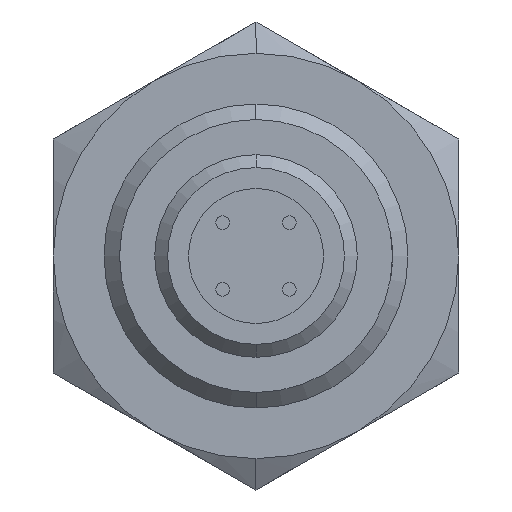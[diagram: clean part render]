
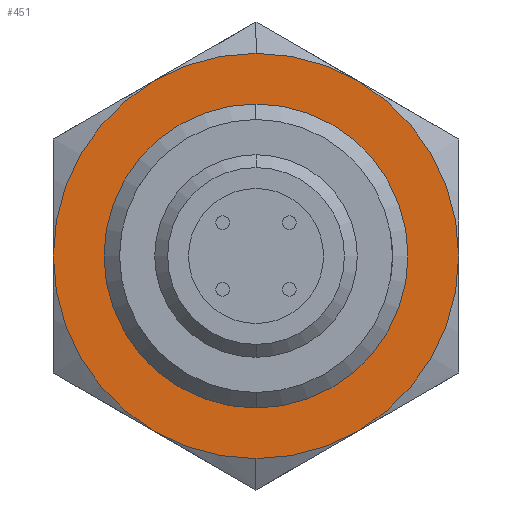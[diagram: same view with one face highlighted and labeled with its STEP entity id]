
A CAD part, left-side view. The second image highlights one B-rep face of the part: STEP entity #451.
In plain terms, the highlighted planar face has unit normal (-1, 0, 0).
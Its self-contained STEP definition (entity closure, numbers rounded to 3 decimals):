
#249=CARTESIAN_POINT('POINT1297',(-6.,0.,
   -12.));
#250=VERTEX_POINT('VERTEX1297',#249);
#259=CARTESIAN_POINT('POINT1299',(-6.,-6.,
   -10.392));
#260=VERTEX_POINT('VERTEX1299',#259);
#267=CARTESIAN_POINT('POS1658',(-6.,0.,
   0.));
#268=DIRECTION('DIR2678',(-1.,0.,
   0.));
#269=DIRECTION('DIR2679',(0.,0.,
   -1.));
#270=AXIS2_PLACEMENT_3D('AXIS1021',#267,#268,#269);
#271=CIRCLE('ELLIPSE428',#270,12.);
#272=EDGE_CURVE('EDGE2199',#250,#260,#271,.T.);
#283=CARTESIAN_POINT('POINT1300',(-6.,6.,
   -10.392));
#284=VERTEX_POINT('VERTEX1300',#283);
#285=EDGE_CURVE('EDGE2200',#284,#250,#271,.T.);
#296=CARTESIAN_POINT('POINT1301',(-6.,-12.,
   0.));
#297=VERTEX_POINT('VERTEX1301',#296);
#306=EDGE_CURVE('EDGE2203',#260,#297,#271,.T.);
#325=CARTESIAN_POINT('POINT1304',(-6.,12.,
   0.));
#326=VERTEX_POINT('VERTEX1304',#325);
#327=EDGE_CURVE('EDGE2206',#326,#284,#271,.T.);
#411=CARTESIAN_POINT('POINT1310',(-6.,0.,9.));
#412=VERTEX_POINT('VERTEX1310',#411);
#413=CARTESIAN_POINT('POINT1311',(-6.,0.,
   -9.));
#414=VERTEX_POINT('VERTEX1311',#413);
#415=CARTESIAN_POINT('POS1665',(-6.,0.,
   0.));
#416=DIRECTION('DIR2689',(1.,0.,0.));
#417=DIRECTION('DIR2690',(0.,0.,1.));
#418=AXIS2_PLACEMENT_3D('AXIS1025',#415,#416,#417);
#419=CIRCLE('ELLIPSE429',#418,9.);
#420=EDGE_CURVE('EDGE2215',#412,#414,#419,.T.);
#421=ORIENTED_EDGE('COEDGE4417',*,*,#420,.T.);
#422=EDGE_CURVE('EDGE2216',#414,#412,#419,.T.);
#423=ORIENTED_EDGE('COEDGE4418',*,*,#422,.T.);
#424=EDGE_LOOP('NONE',(#421,#423));
#425=FACE_BOUND('LOOP1',#424,.T.);
#426=ORIENTED_EDGE('COEDGE4419',*,*,#327,.T.);
#427=ORIENTED_EDGE('COEDGE4420',*,*,#285,.T.);
#428=ORIENTED_EDGE('COEDGE4421',*,*,#272,.T.);
#429=ORIENTED_EDGE('COEDGE4422',*,*,#306,.T.);
#430=CARTESIAN_POINT('POINT1312',(-6.,-6.,
   10.392));
#431=VERTEX_POINT('VERTEX1312',#430);
#432=EDGE_CURVE('EDGE2217',#297,#431,#271,.T.);
#433=ORIENTED_EDGE('COEDGE4423',*,*,#432,.T.);
#434=CARTESIAN_POINT('POINT1313',(-6.,0.,
   12.));
#435=VERTEX_POINT('VERTEX1313',#434);
#436=EDGE_CURVE('EDGE2218',#431,#435,#271,.T.);
#437=ORIENTED_EDGE('COEDGE4424',*,*,#436,.T.);
#438=CARTESIAN_POINT('POINT1314',(-6.,6.,
   10.392));
#439=VERTEX_POINT('VERTEX1314',#438);
#440=EDGE_CURVE('EDGE2219',#435,#439,#271,.T.);
#441=ORIENTED_EDGE('COEDGE4425',*,*,#440,.T.);
#442=EDGE_CURVE('EDGE2220',#439,#326,#271,.T.);
#443=ORIENTED_EDGE('COEDGE4426',*,*,#442,.T.);
#444=EDGE_LOOP('NONE',(#426,#427,#428,#429,#433,#437,#441,#443));
#445=FACE_BOUND('LOOP1',#444,.T.);
#446=CARTESIAN_POINT('POS1666',(-6.,0.,
   0.));
#447=DIRECTION('DIR2691',(-1.,0.,
   0.));
#448=DIRECTION('DIR2692',(0.,1.,
   0.));
#449=AXIS2_PLACEMENT_3D('AXIS1026',#446,#447,#448);
#450=PLANE('PLANE333',#449);
#451=ADVANCED_FACE('FACE1109',(#425,#445),#450,.T.);
